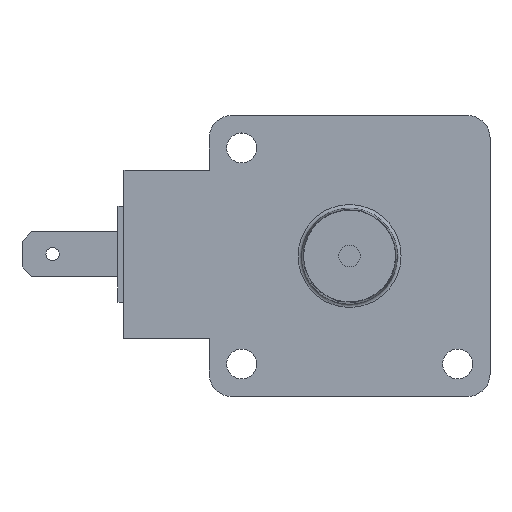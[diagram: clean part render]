
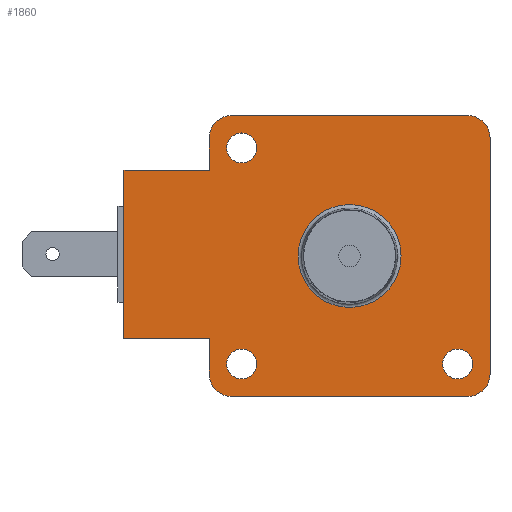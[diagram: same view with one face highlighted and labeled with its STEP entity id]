
A CAD part, front view. The second image highlights one B-rep face of the part: STEP entity #1860.
In plain terms, the highlighted planar face has unit normal (0, -1, 0).
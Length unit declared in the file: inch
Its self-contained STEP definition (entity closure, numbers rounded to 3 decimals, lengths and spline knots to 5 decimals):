
#63=FACE_BOUND('',#305,.T.);
#64=FACE_BOUND('',#306,.T.);
#65=FACE_BOUND('',#307,.T.);
#66=FACE_BOUND('',#308,.T.);
#112=PLANE('',#2009);
#186=FACE_OUTER_BOUND('',#304,.T.);
#304=EDGE_LOOP('',(#1465,#1466,#1467,#1468,#1469,#1470,#1471,#1472,#1473,
#1474,#1475,#1476));
#305=EDGE_LOOP('',(#1477));
#306=EDGE_LOOP('',(#1478));
#307=EDGE_LOOP('',(#1479));
#308=EDGE_LOOP('',(#1480));
#471=LINE('',#2910,#648);
#472=LINE('',#2914,#649);
#473=LINE('',#2918,#650);
#474=LINE('',#2920,#651);
#475=LINE('',#2922,#652);
#476=LINE('',#2924,#653);
#477=LINE('',#2926,#654);
#478=LINE('',#2930,#655);
#648=VECTOR('',#2356,0.3937);
#649=VECTOR('',#2359,0.3937);
#650=VECTOR('',#2362,0.3937);
#651=VECTOR('',#2363,0.3937);
#652=VECTOR('',#2364,0.3937);
#653=VECTOR('',#2365,0.3937);
#654=VECTOR('',#2366,0.3937);
#655=VECTOR('',#2369,0.3937);
#749=CIRCLE('',#2005,0.21449);
#752=CIRCLE('',#2010,0.093);
#753=CIRCLE('',#2011,0.093);
#754=CIRCLE('',#2012,0.093);
#755=CIRCLE('',#2013,0.093);
#756=CIRCLE('',#2014,0.0625);
#757=CIRCLE('',#2015,0.0625);
#758=CIRCLE('',#2016,0.0625);
#879=VERTEX_POINT('',#2899);
#881=VERTEX_POINT('',#2908);
#882=VERTEX_POINT('',#2909);
#883=VERTEX_POINT('',#2911);
#884=VERTEX_POINT('',#2913);
#885=VERTEX_POINT('',#2915);
#886=VERTEX_POINT('',#2917);
#887=VERTEX_POINT('',#2919);
#888=VERTEX_POINT('',#2921);
#889=VERTEX_POINT('',#2923);
#890=VERTEX_POINT('',#2925);
#891=VERTEX_POINT('',#2927);
#892=VERTEX_POINT('',#2929);
#893=VERTEX_POINT('',#2932);
#894=VERTEX_POINT('',#2934);
#895=VERTEX_POINT('',#2936);
#1086=EDGE_CURVE('',#879,#879,#749,.T.);
#1090=EDGE_CURVE('',#881,#882,#471,.T.);
#1091=EDGE_CURVE('',#883,#881,#752,.T.);
#1092=EDGE_CURVE('',#884,#883,#472,.T.);
#1093=EDGE_CURVE('',#885,#884,#753,.T.);
#1094=EDGE_CURVE('',#886,#885,#473,.T.);
#1095=EDGE_CURVE('',#887,#886,#474,.T.);
#1096=EDGE_CURVE('',#888,#887,#475,.T.);
#1097=EDGE_CURVE('',#889,#888,#476,.T.);
#1098=EDGE_CURVE('',#890,#889,#477,.T.);
#1099=EDGE_CURVE('',#891,#890,#754,.T.);
#1100=EDGE_CURVE('',#892,#891,#478,.T.);
#1101=EDGE_CURVE('',#882,#892,#755,.T.);
#1102=EDGE_CURVE('',#893,#893,#756,.T.);
#1103=EDGE_CURVE('',#894,#894,#757,.T.);
#1104=EDGE_CURVE('',#895,#895,#758,.T.);
#1465=ORIENTED_EDGE('',*,*,#1090,.F.);
#1466=ORIENTED_EDGE('',*,*,#1091,.F.);
#1467=ORIENTED_EDGE('',*,*,#1092,.F.);
#1468=ORIENTED_EDGE('',*,*,#1093,.F.);
#1469=ORIENTED_EDGE('',*,*,#1094,.F.);
#1470=ORIENTED_EDGE('',*,*,#1095,.F.);
#1471=ORIENTED_EDGE('',*,*,#1096,.F.);
#1472=ORIENTED_EDGE('',*,*,#1097,.F.);
#1473=ORIENTED_EDGE('',*,*,#1098,.F.);
#1474=ORIENTED_EDGE('',*,*,#1099,.F.);
#1475=ORIENTED_EDGE('',*,*,#1100,.F.);
#1476=ORIENTED_EDGE('',*,*,#1101,.F.);
#1477=ORIENTED_EDGE('',*,*,#1102,.T.);
#1478=ORIENTED_EDGE('',*,*,#1103,.T.);
#1479=ORIENTED_EDGE('',*,*,#1104,.T.);
#1480=ORIENTED_EDGE('',*,*,#1086,.F.);
#1860=ADVANCED_FACE('',(#186,#63,#64,#65,#66),#112,.T.);
#2005=AXIS2_PLACEMENT_3D('',#2901,#2345,#2346);
#2009=AXIS2_PLACEMENT_3D('',#2907,#2354,#2355);
#2010=AXIS2_PLACEMENT_3D('',#2912,#2357,#2358);
#2011=AXIS2_PLACEMENT_3D('',#2916,#2360,#2361);
#2012=AXIS2_PLACEMENT_3D('',#2928,#2367,#2368);
#2013=AXIS2_PLACEMENT_3D('',#2931,#2370,#2371);
#2014=AXIS2_PLACEMENT_3D('',#2933,#2372,#2373);
#2015=AXIS2_PLACEMENT_3D('',#2935,#2374,#2375);
#2016=AXIS2_PLACEMENT_3D('',#2937,#2376,#2377);
#2345=DIRECTION('center_axis',(0.,-1.,0.));
#2346=DIRECTION('ref_axis',(1.,0.,0.));
#2354=DIRECTION('center_axis',(0.,-1.,0.));
#2355=DIRECTION('ref_axis',(0.,0.,-1.));
#2356=DIRECTION('',(0.,0.,-1.));
#2357=DIRECTION('center_axis',(0.,1.,0.));
#2358=DIRECTION('ref_axis',(1.,0.,0.));
#2359=DIRECTION('',(1.,0.,0.));
#2360=DIRECTION('center_axis',(0.,1.,0.));
#2361=DIRECTION('ref_axis',(0.,0.,1.));
#2362=DIRECTION('',(0.,0.,1.));
#2363=DIRECTION('',(1.,0.,0.));
#2364=DIRECTION('',(0.,0.,1.));
#2365=DIRECTION('',(-1.,0.,0.));
#2366=DIRECTION('',(0.,0.,1.));
#2367=DIRECTION('center_axis',(0.,1.,0.));
#2368=DIRECTION('ref_axis',(-1.,0.,0.));
#2369=DIRECTION('',(-1.,0.,0.));
#2370=DIRECTION('center_axis',(0.,1.,0.));
#2371=DIRECTION('ref_axis',(0.,0.,-1.));
#2372=DIRECTION('center_axis',(0.,1.,0.));
#2373=DIRECTION('ref_axis',(0.814,0.,0.581));
#2374=DIRECTION('center_axis',(0.,1.,0.));
#2375=DIRECTION('ref_axis',(0.814,0.,0.581));
#2376=DIRECTION('center_axis',(0.,1.,0.));
#2377=DIRECTION('ref_axis',(0.814,0.,0.581));
#2899=CARTESIAN_POINT('',(6.585,0.,-0.79949));
#2901=CARTESIAN_POINT('Origin',(6.585,0.,-0.585));
#2907=CARTESIAN_POINT('Origin',(6.4075,0.,0.001));
#2908=CARTESIAN_POINT('',(7.17,0.,-0.093));
#2909=CARTESIAN_POINT('',(7.17,0.,-1.077));
#2910=CARTESIAN_POINT('',(7.17,0.,-0.093));
#2911=CARTESIAN_POINT('',(7.077,0.,0.));
#2912=CARTESIAN_POINT('Origin',(7.077,0.,-0.093));
#2913=CARTESIAN_POINT('',(6.093,0.,0.));
#2914=CARTESIAN_POINT('',(6.093,0.,0.));
#2915=CARTESIAN_POINT('',(6.,0.,-0.093));
#2916=CARTESIAN_POINT('Origin',(6.093,0.,-0.093));
#2917=CARTESIAN_POINT('',(6.,0.,-0.22731));
#2918=CARTESIAN_POINT('',(6.,0.,-0.22731));
#2919=CARTESIAN_POINT('',(5.645,0.,-0.22731));
#2920=CARTESIAN_POINT('',(5.645,0.,-0.22731));
#2921=CARTESIAN_POINT('',(5.645,0.,-0.92731));
#2922=CARTESIAN_POINT('',(5.645,0.,-0.92731));
#2923=CARTESIAN_POINT('',(6.,0.,-0.92731));
#2924=CARTESIAN_POINT('',(6.,0.,-0.92731));
#2925=CARTESIAN_POINT('',(6.,0.,-1.077));
#2926=CARTESIAN_POINT('',(6.,0.,-1.077));
#2927=CARTESIAN_POINT('',(6.093,0.,-1.17));
#2928=CARTESIAN_POINT('Origin',(6.093,0.,-1.077));
#2929=CARTESIAN_POINT('',(7.077,0.,-1.17));
#2930=CARTESIAN_POINT('',(7.077,0.,-1.17));
#2931=CARTESIAN_POINT('Origin',(7.077,0.,-1.077));
#2932=CARTESIAN_POINT('',(6.0725,0.,-1.035));
#2933=CARTESIAN_POINT('Origin',(6.135,0.,-1.035));
#2934=CARTESIAN_POINT('',(6.0725,0.,-0.135));
#2935=CARTESIAN_POINT('Origin',(6.135,0.,-0.135));
#2936=CARTESIAN_POINT('',(6.9725,0.,-1.035));
#2937=CARTESIAN_POINT('Origin',(7.035,0.,-1.035));
